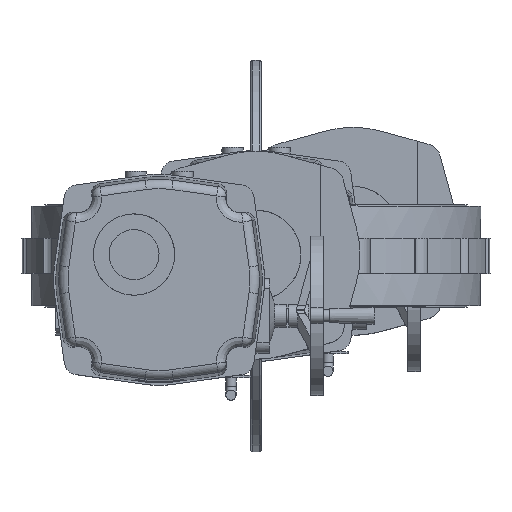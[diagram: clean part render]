
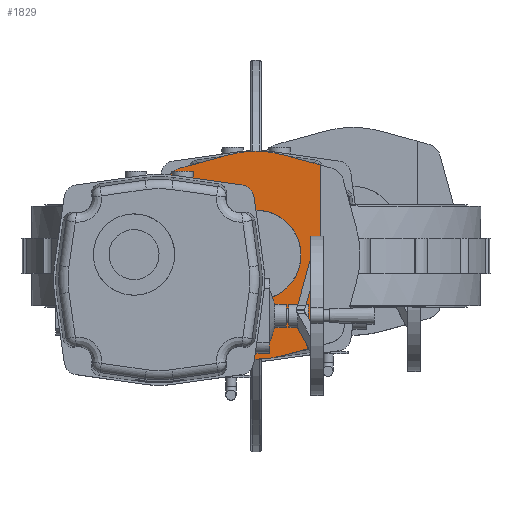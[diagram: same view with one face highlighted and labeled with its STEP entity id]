
A CAD part, top view. The second image highlights one B-rep face of the part: STEP entity #1829.
In plain terms, the highlighted planar face has unit normal (0, 0, 1).
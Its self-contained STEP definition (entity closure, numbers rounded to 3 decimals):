
#1829 = ADVANCED_FACE( '', ( #3856, #3857 ), #3858, .T. );
#3856 = FACE_BOUND( '', #9891, .T. );
#3857 = FACE_OUTER_BOUND( '', #9892, .T. );
#3858 = PLANE( '', #9893 );
#9891 = EDGE_LOOP( '', ( #16222 ) );
#9892 = EDGE_LOOP( '', ( #16223, #16224, #16225, #16226, #16227, #16228, #16229, #16230, #16231, #16232, #16233, #16234 ) );
#9893 = AXIS2_PLACEMENT_3D( '', #16235, #16236, #16237 );
#16222 = ORIENTED_EDGE( '', *, *, #17354, .F. );
#16223 = ORIENTED_EDGE( '', *, *, #18847, .F. );
#16224 = ORIENTED_EDGE( '', *, *, #18149, .T. );
#16225 = ORIENTED_EDGE( '', *, *, #18709, .T. );
#16226 = ORIENTED_EDGE( '', *, *, #18701, .T. );
#16227 = ORIENTED_EDGE( '', *, *, #17464, .T. );
#16228 = ORIENTED_EDGE( '', *, *, #18537, .T. );
#16229 = ORIENTED_EDGE( '', *, *, #18703, .T. );
#16230 = ORIENTED_EDGE( '', *, *, #18374, .T. );
#16231 = ORIENTED_EDGE( '', *, *, #18861, .T. );
#16232 = ORIENTED_EDGE( '', *, *, #18816, .T. );
#16233 = ORIENTED_EDGE( '', *, *, #18810, .T. );
#16234 = ORIENTED_EDGE( '', *, *, #18195, .T. );
#16235 = CARTESIAN_POINT( '', ( 124., 32., -260.5 ) );
#16236 = DIRECTION( '', ( 0., 0., 1. ) );
#16237 = DIRECTION( '', ( 1., 0., 0. ) );
#17354 = EDGE_CURVE( '', #19995, #19995, #19996, .T. );
#17464 = EDGE_CURVE( '', #20173, #20179, #20181, .T. );
#18149 = EDGE_CURVE( '', #21204, #21205, #21206, .T. );
#18195 = EDGE_CURVE( '', #21272, #21270, #21273, .T. );
#18374 = EDGE_CURVE( '', #21502, #21500, #21503, .T. );
#18537 = EDGE_CURVE( '', #20179, #21702, #21704, .T. );
#18701 = EDGE_CURVE( '', #21908, #20173, #21910, .T. );
#18703 = EDGE_CURVE( '', #21702, #21502, #21912, .F. );
#18709 = EDGE_CURVE( '', #21205, #21908, #21918, .T. );
#18810 = EDGE_CURVE( '', #22026, #21272, #22028, .T. );
#18816 = EDGE_CURVE( '', #22034, #22026, #22036, .T. );
#18847 = EDGE_CURVE( '', #21204, #21270, #22067, .T. );
#18861 = EDGE_CURVE( '', #21500, #22034, #22081, .T. );
#19995 = VERTEX_POINT( '', #26453 );
#19996 = CIRCLE( '', #26454, 57.5 );
#20173 = VERTEX_POINT( '', #26795 );
#20179 = VERTEX_POINT( '', #26803 );
#20181 = CIRCLE( '', #26806, 20. );
#21204 = VERTEX_POINT( '', #30693 );
#21205 = VERTEX_POINT( '', #30694 );
#21206 = LINE( '', #30695, #30696 );
#21270 = VERTEX_POINT( '', #30849 );
#21272 = VERTEX_POINT( '', #30852 );
#21273 = LINE( '', #30853, #30854 );
#21500 = VERTEX_POINT( '', #31907 );
#21502 = VERTEX_POINT( '', #31910 );
#21503 = LINE( '', #31911, #31912 );
#21702 = VERTEX_POINT( '', #32367 );
#21704 = LINE( '', #32370, #32371 );
#21908 = VERTEX_POINT( '', #32922 );
#21910 = LINE( '', #32925, #32926 );
#21912 = CIRCLE( '', #32928, 54.904 );
#21918 = CIRCLE( '', #32937, 133. );
#22026 = VERTEX_POINT( '', #33378 );
#22028 = CIRCLE( '', #33381, 133. );
#22034 = VERTEX_POINT( '', #33387 );
#22036 = LINE( '', #33390, #33391 );
#22067 = LINE( '', #33582, #33583 );
#22081 = CIRCLE( '', #33597, 20. );
#26453 = CARTESIAN_POINT( '', ( 181.5, 32., -260.5 ) );
#26454 = AXIS2_PLACEMENT_3D( '', #34386, #34387, #34388 );
#26795 = CARTESIAN_POINT( '', ( 26.727, 143.292, -260.5 ) );
#26803 = CARTESIAN_POINT( '', ( 19.956, 139.967, -260.5 ) );
#26806 = AXIS2_PLACEMENT_3D( '', #34549, #34550, #34551 );
#30693 = CARTESIAN_POINT( '', ( 206., 147.467, -260.5 ) );
#30694 = CARTESIAN_POINT( '', ( 159.064, 160.295, -260.5 ) );
#30695 = CARTESIAN_POINT( '', ( 221.273, 143.292, -260.5 ) );
#30696 = VECTOR( '', #35234, 1000. );
#30849 = CARTESIAN_POINT( '', ( 206., -83.467, -260.5 ) );
#30852 = CARTESIAN_POINT( '', ( 159.064, -96.295, -260.5 ) );
#30853 = CARTESIAN_POINT( '', ( 159.064, -96.295, -260.5 ) );
#30854 = VECTOR( '', #35268, 1000. );
#31907 = CARTESIAN_POINT( '', ( 19.956, -75.967, -260.5 ) );
#31910 = CARTESIAN_POINT( '', ( -65.064, -11.831, -260.5 ) );
#31911 = CARTESIAN_POINT( '', ( -65.064, -11.831, -260.5 ) );
#31912 = VECTOR( '', #35438, 1000. );
#32367 = CARTESIAN_POINT( '', ( -65.064, 75.831, -260.5 ) );
#32370 = CARTESIAN_POINT( '', ( -65.064, 75.831, -260.5 ) );
#32371 = VECTOR( '', #35601, 1000. );
#32922 = CARTESIAN_POINT( '', ( 88.936, 160.295, -260.5 ) );
#32925 = CARTESIAN_POINT( '', ( 26.727, 143.292, -260.5 ) );
#32926 = VECTOR( '', #35738, 1000. );
#32928 = AXIS2_PLACEMENT_3D( '', #35739, #35740, #35741 );
#32937 = AXIS2_PLACEMENT_3D( '', #35742, #35743, #35744 );
#33378 = CARTESIAN_POINT( '', ( 88.936, -96.295, -260.5 ) );
#33381 = AXIS2_PLACEMENT_3D( '', #35808, #35809, #35810 );
#33387 = CARTESIAN_POINT( '', ( 26.727, -79.292, -260.5 ) );
#33390 = CARTESIAN_POINT( '', ( 88.936, -96.295, -260.5 ) );
#33391 = VECTOR( '', #35815, 1000. );
#33582 = CARTESIAN_POINT( '', ( 206., 32., -260.5 ) );
#33583 = VECTOR( '', #35822, 1000. );
#33597 = AXIS2_PLACEMENT_3D( '', #35826, #35827, #35828 );
#34386 = CARTESIAN_POINT( '', ( 124., 32., -260.5 ) );
#34387 = DIRECTION( '', ( 0., 0., 1. ) );
#34388 = DIRECTION( '', ( 1., 0., 0. ) );
#34549 = CARTESIAN_POINT( '', ( 32., 124., -260.5 ) );
#34550 = DIRECTION( '', ( 0., 0., 1. ) );
#34551 = DIRECTION( '', ( 1., 0., 0. ) );
#35234 = DIRECTION( '', ( -0.965, 0.264, 0. ) );
#35268 = DIRECTION( '', ( 0.965, 0.264, 0. ) );
#35438 = DIRECTION( '', ( 0.798, -0.602, 0. ) );
#35601 = DIRECTION( '', ( -0.798, -0.602, 0. ) );
#35738 = DIRECTION( '', ( -0.965, -0.264, 0. ) );
#35739 = CARTESIAN_POINT( '', ( -32., 32., -260.5 ) );
#35740 = DIRECTION( '', ( 0., 0., 1. ) );
#35741 = DIRECTION( '', ( 1., 0., 0. ) );
#35742 = CARTESIAN_POINT( '', ( 124., 32., -260.5 ) );
#35743 = DIRECTION( '', ( 0., 0., 1. ) );
#35744 = DIRECTION( '', ( 1., 0., 0. ) );
#35808 = CARTESIAN_POINT( '', ( 124., 32., -260.5 ) );
#35809 = DIRECTION( '', ( 0., 0., 1. ) );
#35810 = DIRECTION( '', ( 1., 0., 0. ) );
#35815 = DIRECTION( '', ( 0.965, -0.264, 0. ) );
#35822 = DIRECTION( '', ( 0., -1., 0. ) );
#35826 = CARTESIAN_POINT( '', ( 32., -60., -260.5 ) );
#35827 = DIRECTION( '', ( 0., 0., 1. ) );
#35828 = DIRECTION( '', ( 1., 0., 0. ) );
